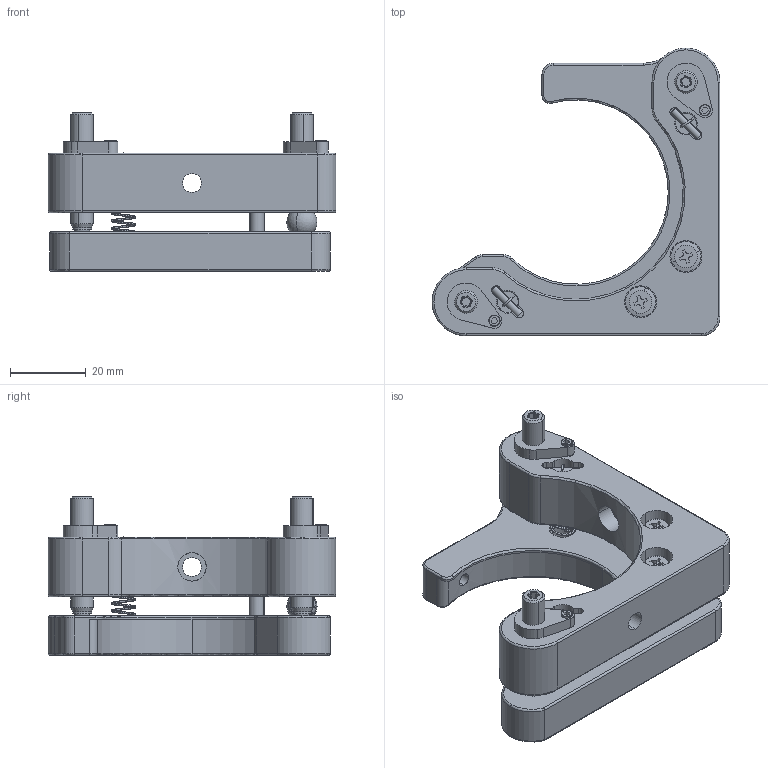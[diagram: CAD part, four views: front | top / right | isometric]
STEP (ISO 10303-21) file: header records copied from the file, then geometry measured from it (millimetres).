
FILE_DESCRIPTION (( 'STEP AP203' ), '1' );
FILE_NAME ('M-TNC-2R-FEC.STEP', '2020-08-19T02:33:06', ( '匠星' ), ( '' ), 'SwSTEP 2.0', 'SolidWorks 2019', '' );
FILE_SCHEMA (( 'CONFIG_CONTROL_DESIGN' ));
Length unit declared in the file: millimetre
Products named in the file (1): M-TNC-2R-FEC
Bounding box: 76.2 x 76.2 x 42 mm (x, y, z)
Volume: 50566.2 mm3; surface area: 22442.4 mm2
Topology: 19 solids, 21 shells, 666 faces, 1552 edges, 945 vertices
Faces by surface type: cylinder 313, plane 189, torus 80, cone 52, sphere 28, bspline 4
Entity records: 23388 total; most frequent: CARTESIAN_POINT 8048, DIRECTION 3449, ORIENTED_EDGE 3022, EDGE_CURVE 1511, AXIS2_PLACEMENT_3D 1387, VERTEX_POINT 938, EDGE_LOOP 741, CIRCLE 724
